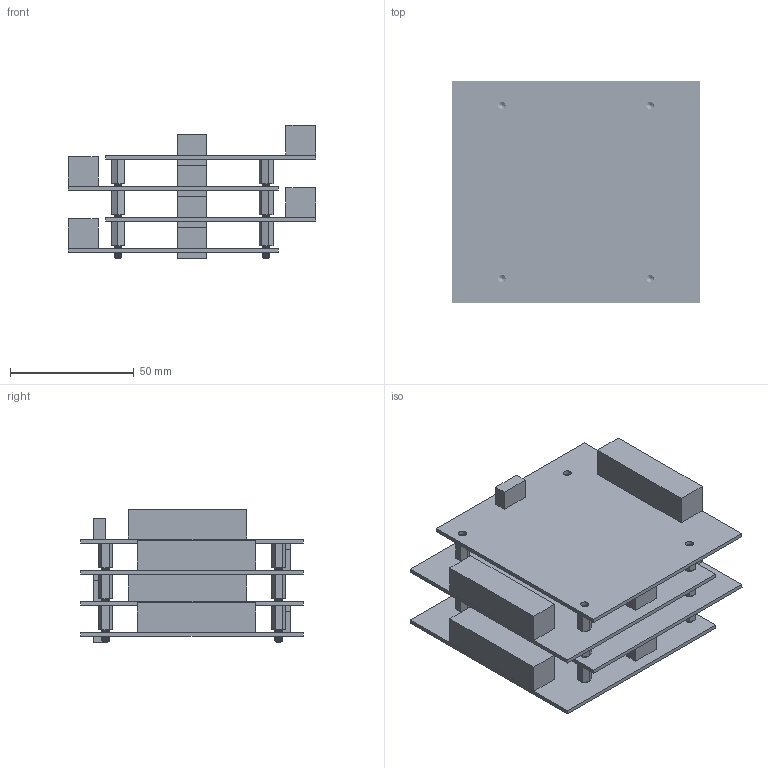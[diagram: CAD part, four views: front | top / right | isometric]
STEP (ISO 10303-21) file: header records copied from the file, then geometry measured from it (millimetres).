
FILE_DESCRIPTION(('FreeCAD Model'),'2;1');
FILE_NAME('Open CASCADE Shape Model','2023-03-21T20:03:33',(''),(''), 'Open CASCADE STEP processor 7.6','FreeCAD','Unknown');
FILE_SCHEMA(('AUTOMOTIVE_DESIGN { 1 0 10303 214 1 1 1 1 }'));
Length unit declared in the file: millimetre
Products named in the file (17): Unnamed; PCHSN-101_001; PCHSN-101_003; PCHSN-101_005; PCHSN-101_008; PCHSN-101_002; 1_001; PCHSN-101_006; PCHSN-101_004; PCHSN-101_007; 1_003; PCHSN-101_010; 1_002; 1_004; PCHSN-101_009; PCHSN-101_011; PCHSN-101_012
Assembly tree (16 placements, depth 2):
  Unnamed
    PCHSN-101_001
    PCHSN-101_003
    PCHSN-101_005
    PCHSN-101_008
    PCHSN-101_002
    1_001
    PCHSN-101_006
    PCHSN-101_004
    PCHSN-101_007
    1_003
    PCHSN-101_010
    1_002
    1_004
    PCHSN-101_009
    PCHSN-101_011
    PCHSN-101_012
Bounding box: 100 x 90 x 53.9 mm (x, y, z)
Volume: 81563.7 mm3; surface area: 74922.6 mm2
Topology: 16 solids, 16 shells, 820 faces, 2232 edges, 1456 vertices
Faces by surface type: cylinder 424, plane 216, cone 96, bspline 84
Full cylindrical faces by diameter (mm): 3.2 x16
Entity records: 65889 total; most frequent: CARTESIAN_POINT 42781, ORIENTED_EDGE 4416, DIRECTION 2882, EDGE_CURVE 2208, VERTEX_POINT 1456, AXIS2_PLACEMENT_3D 965, LINE 952, VECTOR 952
